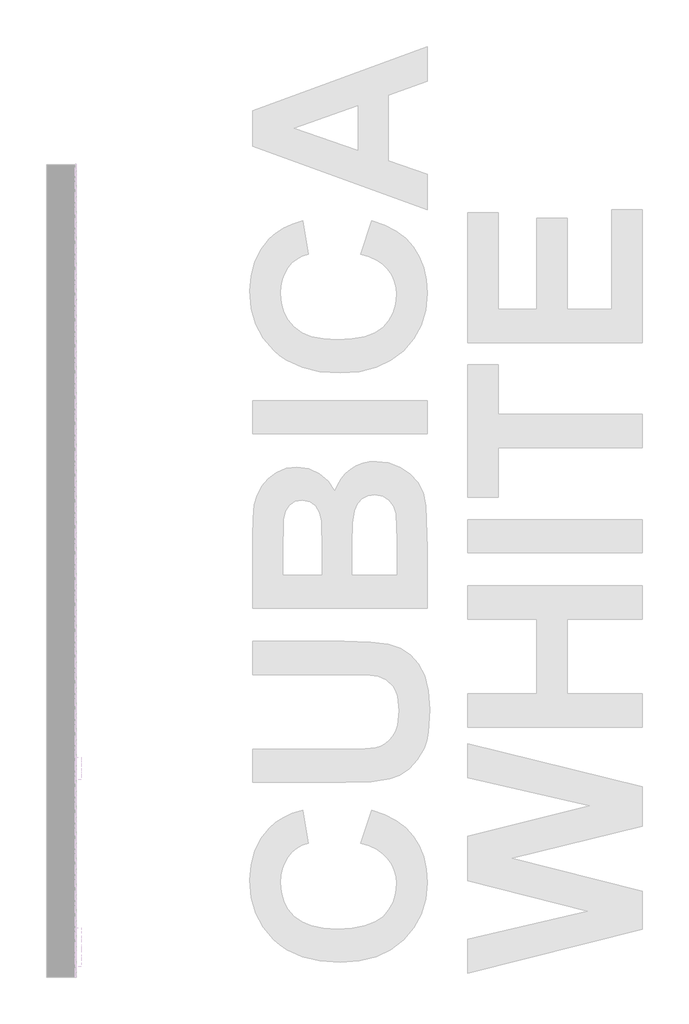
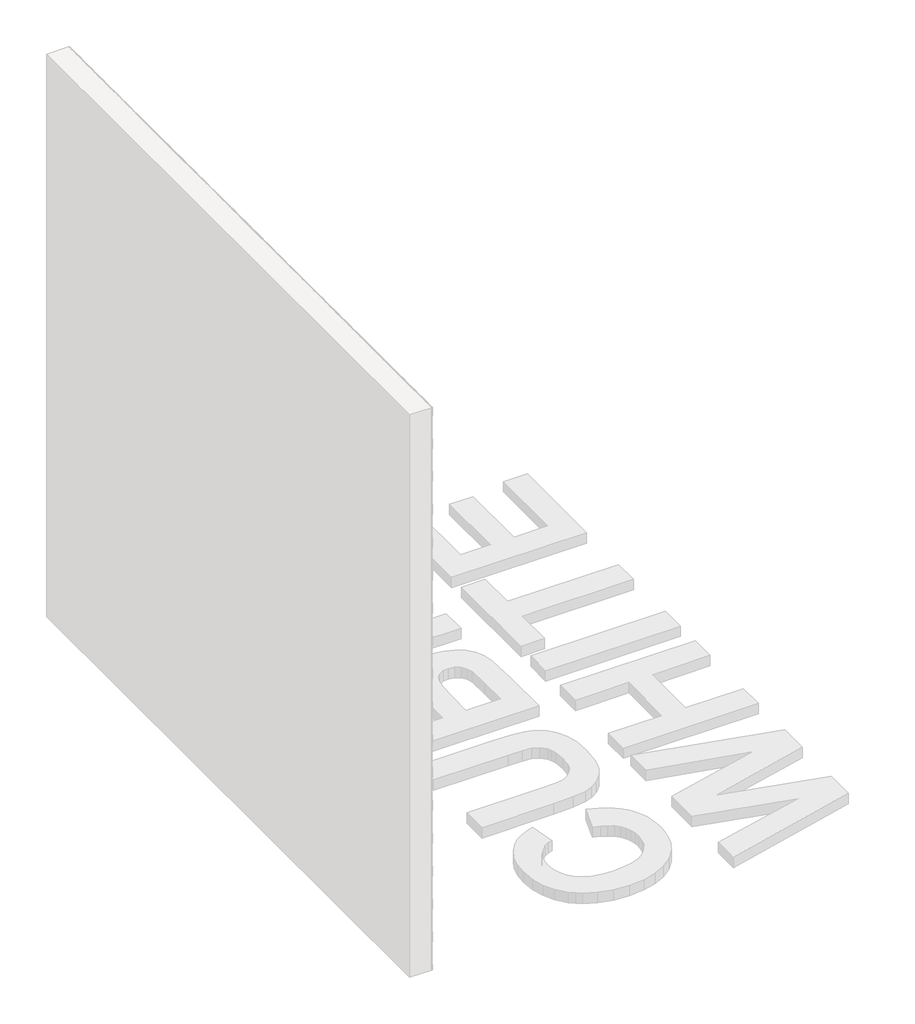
# One storey, part 117 of 121: 144 proxies.
"""IFC4 building model written with IfcOpenShell, lengths in millimetres."""

from ifc_helpers import new_model, si_unit, origin, place, context, project, spatial, transform, mapped, element, save
from components import generic_models_b2b2c5c1, generic_models_9bf73f6f, generic_models_5d175859, generic_models_0bb79e7c

model = new_model("IFC4")

# Units and contexts
model_context = context("Model", 3, world=origin())
ifc_project = project(units=[si_unit("LENGTHUNIT", "METRE", prefix="MILLI")], contexts=[model_context])

# Site, building, storey
site = spatial("IfcSite", under=ifc_project)
building = spatial("IfcBuilding", under=site)
storey = spatial("IfcBuildingStorey", under=building, Name="PORTOBELLO - SHOWROOM", Elevation=0.0)

# Proxies
placement = place(None, origin())
generic_models_shape = generic_models_b2b2c5c1(model_context)
element("IfcBuildingElementProxy", 1, Name="PBSHOP - CUBICA WHITE 4,8X8,3 : CUBICA WHITE - POSIÇÃO 01", ObjectType="PBSHOP - CUBICA WHITE 4,8X8,3 : CUBICA WHITE - POSIÇÃO 01", at=placement, inside=storey, context=model_context, shape_type="MappedRepresentation", body=[
    mapped(generic_models_shape, transform((150369.5341846, 21830.8865536, 1302.3763808), x_axis=(0.0, 1.0, 0.0), y_axis=(0.0, 0.0, 1.0), z_axis=(1.0, 0.0, 0.0))),
])
element("IfcBuildingElementProxy", 2, Name="PBSHOP - CUBICA WHITE 4,8X8,3 : CUBICA WHITE - POSIÇÃO 01", ObjectType="PBSHOP - CUBICA WHITE 4,8X8,3 : CUBICA WHITE - POSIÇÃO 01", at=placement, inside=storey, context=model_context, shape_type="MappedRepresentation", body=[
    mapped(generic_models_shape, transform((150369.5341846, 21921.7258229, 1302.3763808), x_axis=(0.0, 1.0, 0.0), y_axis=(0.0, 0.0, 1.0), z_axis=(1.0, 0.0, 0.0))),
])
element("IfcBuildingElementProxy", 3, Name="PBSHOP - CUBICA WHITE 4,8X8,3 : CUBICA WHITE - POSIÇÃO 01", ObjectType="PBSHOP - CUBICA WHITE 4,8X8,3 : CUBICA WHITE - POSIÇÃO 01", at=placement, inside=storey, context=model_context, shape_type="MappedRepresentation", body=[
    mapped(generic_models_shape, transform((150369.5341846, 21058.7527651, 1381.3110192), x_axis=(0.0, 1.0, 0.0), y_axis=(0.0, 0.0, 1.0), z_axis=(1.0, 0.0, 0.0))),
])
element("IfcBuildingElementProxy", 4, Name="PBSHOP - CUBICA WHITE 4,8X8,3 : CUBICA WHITE - POSIÇÃO 01", ObjectType="PBSHOP - CUBICA WHITE 4,8X8,3 : CUBICA WHITE - POSIÇÃO 01", at=placement, inside=storey, context=model_context, shape_type="MappedRepresentation", body=[
    mapped(generic_models_shape, transform((150369.5341846, 21149.5920343, 1381.3110192), x_axis=(0.0, 1.0, 0.0), y_axis=(0.0, 0.0, 1.0), z_axis=(1.0, 0.0, 0.0))),
])
element("IfcBuildingElementProxy", 5, Name="PBSHOP - CUBICA WHITE 4,8X8,3 : CUBICA WHITE - POSIÇÃO 01", ObjectType="PBSHOP - CUBICA WHITE 4,8X8,3 : CUBICA WHITE - POSIÇÃO 01", at=placement, inside=storey, context=model_context, shape_type="MappedRepresentation", body=[
    mapped(generic_models_shape, transform((150369.5341846, 21240.4313036, 1381.3110192), x_axis=(0.0, 1.0, 0.0), y_axis=(0.0, 0.0, 1.0), z_axis=(1.0, 0.0, 0.0))),
])
element("IfcBuildingElementProxy", 6, Name="PBSHOP - CUBICA WHITE 4,8X8,3 : CUBICA WHITE - POSIÇÃO 01", ObjectType="PBSHOP - CUBICA WHITE 4,8X8,3 : CUBICA WHITE - POSIÇÃO 01", at=placement, inside=storey, context=model_context, shape_type="MappedRepresentation", body=[
    mapped(generic_models_shape, transform((150369.5341846, 21331.2705728, 1381.3110192), x_axis=(0.0, 1.0, 0.0), y_axis=(0.0, 0.0, 1.0), z_axis=(1.0, 0.0, 0.0))),
])
element("IfcBuildingElementProxy", 7, Name="PBSHOP - CUBICA WHITE 4,8X8,3 : CUBICA WHITE - POSIÇÃO 01", ObjectType="PBSHOP - CUBICA WHITE 4,8X8,3 : CUBICA WHITE - POSIÇÃO 01", at=placement, inside=storey, context=model_context, shape_type="MappedRepresentation", body=[
    mapped(generic_models_shape, transform((150369.5341846, 21422.109842, 1381.3110192), x_axis=(0.0, 1.0, 0.0), y_axis=(0.0, 0.0, 1.0), z_axis=(1.0, 0.0, 0.0))),
])
element("IfcBuildingElementProxy", 8, Name="PBSHOP - CUBICA WHITE 4,8X8,3 : CUBICA WHITE - POSIÇÃO 01", ObjectType="PBSHOP - CUBICA WHITE 4,8X8,3 : CUBICA WHITE - POSIÇÃO 01", at=placement, inside=storey, context=model_context, shape_type="MappedRepresentation", body=[
    mapped(generic_models_shape, transform((150369.5341846, 21512.9491113, 1381.3110192), x_axis=(0.0, 1.0, 0.0), y_axis=(0.0, 0.0, 1.0), z_axis=(1.0, 0.0, 0.0))),
])
element("IfcBuildingElementProxy", 9, Name="PBSHOP - CUBICA WHITE 4,8X8,3 : CUBICA WHITE - POSIÇÃO 01", ObjectType="PBSHOP - CUBICA WHITE 4,8X8,3 : CUBICA WHITE - POSIÇÃO 01", at=placement, inside=storey, context=model_context, shape_type="MappedRepresentation", body=[
    mapped(generic_models_shape, transform((150369.5341846, 21603.7883805, 1381.3110192), x_axis=(0.0, 1.0, 0.0), y_axis=(0.0, 0.0, 1.0), z_axis=(1.0, 0.0, 0.0))),
])
element("IfcBuildingElementProxy", 10, Name="PBSHOP - CUBICA WHITE 4,8X8,3 : CUBICA WHITE - POSIÇÃO 01", ObjectType="PBSHOP - CUBICA WHITE 4,8X8,3 : CUBICA WHITE - POSIÇÃO 01", at=placement, inside=storey, context=model_context, shape_type="MappedRepresentation", body=[
    mapped(generic_models_shape, transform((150369.5341846, 21694.6276498, 1381.3110192), x_axis=(0.0, 1.0, 0.0), y_axis=(0.0, 0.0, 1.0), z_axis=(1.0, 0.0, 0.0))),
])
element("IfcBuildingElementProxy", 11, Name="PBSHOP - CUBICA WHITE 4,8X8,3 : CUBICA WHITE - POSIÇÃO 01", ObjectType="PBSHOP - CUBICA WHITE 4,8X8,3 : CUBICA WHITE - POSIÇÃO 01", at=placement, inside=storey, context=model_context, shape_type="MappedRepresentation", body=[
    mapped(generic_models_shape, transform((150369.5341846, 21785.466919, 1381.3110192), x_axis=(0.0, 1.0, 0.0), y_axis=(0.0, 0.0, 1.0), z_axis=(1.0, 0.0, 0.0))),
])
element("IfcBuildingElementProxy", 12, Name="PBSHOP - CUBICA WHITE 4,8X8,3 : CUBICA WHITE - POSIÇÃO 01", ObjectType="PBSHOP - CUBICA WHITE 4,8X8,3 : CUBICA WHITE - POSIÇÃO 01", at=placement, inside=storey, context=model_context, shape_type="MappedRepresentation", body=[
    mapped(generic_models_shape, transform((150369.5341846, 21876.3061883, 1381.3110192), x_axis=(0.0, 1.0, 0.0), y_axis=(0.0, 0.0, 1.0), z_axis=(1.0, 0.0, 0.0))),
])
element("IfcBuildingElementProxy", 13, Name="PBSHOP - CUBICA WHITE 4,8X8,3 : CUBICA WHITE - POSIÇÃO 01", ObjectType="PBSHOP - CUBICA WHITE 4,8X8,3 : CUBICA WHITE - POSIÇÃO 01", at=placement, inside=storey, context=model_context, shape_type="MappedRepresentation", body=[
    mapped(generic_models_shape, transform((150369.5341846, 21967.1454575, 1381.3110192), x_axis=(0.0, 1.0, 0.0), y_axis=(0.0, 0.0, 1.0), z_axis=(1.0, 0.0, 0.0))),
])
element("IfcBuildingElementProxy", 14, Name="PBSHOP - CUBICA WHITE 4,8X8,3 : CUBICA WHITE - POSIÇÃO 01", ObjectType="PBSHOP - CUBICA WHITE 4,8X8,3 : CUBICA WHITE - POSIÇÃO 01", at=placement, inside=storey, context=model_context, shape_type="MappedRepresentation", body=[
    mapped(generic_models_shape, transform((150369.5341846, 21013.3331304, 1460.2456575), x_axis=(0.0, 1.0, 0.0), y_axis=(0.0, 0.0, 1.0), z_axis=(1.0, 0.0, 0.0))),
])
element("IfcBuildingElementProxy", 15, Name="PBSHOP - CUBICA WHITE 4,8X8,3 : CUBICA WHITE - POSIÇÃO 01", ObjectType="PBSHOP - CUBICA WHITE 4,8X8,3 : CUBICA WHITE - POSIÇÃO 01", at=placement, inside=storey, context=model_context, shape_type="MappedRepresentation", body=[
    mapped(generic_models_shape, transform((150369.5341846, 21104.1723997, 1460.2456575), x_axis=(0.0, 1.0, 0.0), y_axis=(0.0, 0.0, 1.0), z_axis=(1.0, 0.0, 0.0))),
])
element("IfcBuildingElementProxy", 16, Name="PBSHOP - CUBICA WHITE 4,8X8,3 : CUBICA WHITE - POSIÇÃO 01", ObjectType="PBSHOP - CUBICA WHITE 4,8X8,3 : CUBICA WHITE - POSIÇÃO 01", at=placement, inside=storey, context=model_context, shape_type="MappedRepresentation", body=[
    mapped(generic_models_shape, transform((150369.5341846, 21195.0116689, 1460.2456575), x_axis=(0.0, 1.0, 0.0), y_axis=(0.0, 0.0, 1.0), z_axis=(1.0, 0.0, 0.0))),
])
element("IfcBuildingElementProxy", 17, Name="PBSHOP - CUBICA WHITE 4,8X8,3 : CUBICA WHITE - POSIÇÃO 01", ObjectType="PBSHOP - CUBICA WHITE 4,8X8,3 : CUBICA WHITE - POSIÇÃO 01", at=placement, inside=storey, context=model_context, shape_type="MappedRepresentation", body=[
    mapped(generic_models_shape, transform((150369.5341846, 21285.8509382, 1460.2456575), x_axis=(0.0, 1.0, 0.0), y_axis=(0.0, 0.0, 1.0), z_axis=(1.0, 0.0, 0.0))),
])
element("IfcBuildingElementProxy", 18, Name="PBSHOP - CUBICA WHITE 4,8X8,3 : CUBICA WHITE - POSIÇÃO 01", ObjectType="PBSHOP - CUBICA WHITE 4,8X8,3 : CUBICA WHITE - POSIÇÃO 01", at=placement, inside=storey, context=model_context, shape_type="MappedRepresentation", body=[
    mapped(generic_models_shape, transform((150369.5341846, 21376.6902074, 1460.2456575), x_axis=(0.0, 1.0, 0.0), y_axis=(0.0, 0.0, 1.0), z_axis=(1.0, 0.0, 0.0))),
])
element("IfcBuildingElementProxy", 19, Name="PBSHOP - CUBICA WHITE 4,8X8,3 : CUBICA WHITE - POSIÇÃO 01", ObjectType="PBSHOP - CUBICA WHITE 4,8X8,3 : CUBICA WHITE - POSIÇÃO 01", at=placement, inside=storey, context=model_context, shape_type="MappedRepresentation", body=[
    mapped(generic_models_shape, transform((150369.5341846, 21467.5294767, 1460.2456575), x_axis=(0.0, 1.0, 0.0), y_axis=(0.0, 0.0, 1.0), z_axis=(1.0, 0.0, 0.0))),
])
element("IfcBuildingElementProxy", 20, Name="PBSHOP - CUBICA WHITE 4,8X8,3 : CUBICA WHITE - POSIÇÃO 01", ObjectType="PBSHOP - CUBICA WHITE 4,8X8,3 : CUBICA WHITE - POSIÇÃO 01", at=placement, inside=storey, context=model_context, shape_type="MappedRepresentation", body=[
    mapped(generic_models_shape, transform((150369.5341846, 21558.3687459, 1460.2456575), x_axis=(0.0, 1.0, 0.0), y_axis=(0.0, 0.0, 1.0), z_axis=(1.0, 0.0, 0.0))),
])
element("IfcBuildingElementProxy", 21, Name="PBSHOP - CUBICA WHITE 4,8X8,3 : CUBICA WHITE - POSIÇÃO 01", ObjectType="PBSHOP - CUBICA WHITE 4,8X8,3 : CUBICA WHITE - POSIÇÃO 01", at=placement, inside=storey, context=model_context, shape_type="MappedRepresentation", body=[
    mapped(generic_models_shape, transform((150369.5341846, 21649.2080152, 1460.2456575), x_axis=(0.0, 1.0, 0.0), y_axis=(0.0, 0.0, 1.0), z_axis=(1.0, 0.0, 0.0))),
])
element("IfcBuildingElementProxy", 22, Name="PBSHOP - CUBICA WHITE 4,8X8,3 : CUBICA WHITE - POSIÇÃO 01", ObjectType="PBSHOP - CUBICA WHITE 4,8X8,3 : CUBICA WHITE - POSIÇÃO 01", at=placement, inside=storey, context=model_context, shape_type="MappedRepresentation", body=[
    mapped(generic_models_shape, transform((150369.5341846, 21740.0472844, 1460.2456575), x_axis=(0.0, 1.0, 0.0), y_axis=(0.0, 0.0, 1.0), z_axis=(1.0, 0.0, 0.0))),
])
element("IfcBuildingElementProxy", 23, Name="PBSHOP - CUBICA WHITE 4,8X8,3 : CUBICA WHITE - POSIÇÃO 01", ObjectType="PBSHOP - CUBICA WHITE 4,8X8,3 : CUBICA WHITE - POSIÇÃO 01", at=placement, inside=storey, context=model_context, shape_type="MappedRepresentation", body=[
    mapped(generic_models_shape, transform((150369.5341846, 21830.8865536, 1460.2456575), x_axis=(0.0, 1.0, 0.0), y_axis=(0.0, 0.0, 1.0), z_axis=(1.0, 0.0, 0.0))),
])
element("IfcBuildingElementProxy", 24, Name="PBSHOP - CUBICA WHITE 4,8X8,3 : CUBICA WHITE - POSIÇÃO 01", ObjectType="PBSHOP - CUBICA WHITE 4,8X8,3 : CUBICA WHITE - POSIÇÃO 01", at=placement, inside=storey, context=model_context, shape_type="MappedRepresentation", body=[
    mapped(generic_models_shape, transform((150369.5341846, 21921.7258229, 1460.2456575), x_axis=(0.0, 1.0, 0.0), y_axis=(0.0, 0.0, 1.0), z_axis=(1.0, 0.0, 0.0))),
])
element("IfcBuildingElementProxy", 25, Name="PBSHOP - CUBICA WHITE 4,8X8,3 : CUBICA WHITE - POSIÇÃO 01", ObjectType="PBSHOP - CUBICA WHITE 4,8X8,3 : CUBICA WHITE - POSIÇÃO 01", at=placement, inside=storey, context=model_context, shape_type="MappedRepresentation", body=[
    mapped(generic_models_shape, transform((150369.5341846, 21058.7527651, 1539.1802959), x_axis=(0.0, 1.0, 0.0), y_axis=(0.0, 0.0, 1.0), z_axis=(1.0, 0.0, 0.0))),
])
element("IfcBuildingElementProxy", 26, Name="PBSHOP - CUBICA WHITE 4,8X8,3 : CUBICA WHITE - POSIÇÃO 01", ObjectType="PBSHOP - CUBICA WHITE 4,8X8,3 : CUBICA WHITE - POSIÇÃO 01", at=placement, inside=storey, context=model_context, shape_type="MappedRepresentation", body=[
    mapped(generic_models_shape, transform((150369.5341846, 21149.5920343, 1539.1802959), x_axis=(0.0, 1.0, 0.0), y_axis=(0.0, 0.0, 1.0), z_axis=(1.0, 0.0, 0.0))),
])
element("IfcBuildingElementProxy", 27, Name="PBSHOP - CUBICA WHITE 4,8X8,3 : CUBICA WHITE - POSIÇÃO 01", ObjectType="PBSHOP - CUBICA WHITE 4,8X8,3 : CUBICA WHITE - POSIÇÃO 01", at=placement, inside=storey, context=model_context, shape_type="MappedRepresentation", body=[
    mapped(generic_models_shape, transform((150369.5341846, 21240.4313036, 1539.1802959), x_axis=(0.0, 1.0, 0.0), y_axis=(0.0, 0.0, 1.0), z_axis=(1.0, 0.0, 0.0))),
])
element("IfcBuildingElementProxy", 28, Name="PBSHOP - CUBICA WHITE 4,8X8,3 : CUBICA WHITE - POSIÇÃO 01", ObjectType="PBSHOP - CUBICA WHITE 4,8X8,3 : CUBICA WHITE - POSIÇÃO 01", at=placement, inside=storey, context=model_context, shape_type="MappedRepresentation", body=[
    mapped(generic_models_shape, transform((150369.5341846, 21331.2705728, 1539.1802959), x_axis=(0.0, 1.0, 0.0), y_axis=(0.0, 0.0, 1.0), z_axis=(1.0, 0.0, 0.0))),
])
element("IfcBuildingElementProxy", 29, Name="PBSHOP - CUBICA WHITE 4,8X8,3 : CUBICA WHITE - POSIÇÃO 01", ObjectType="PBSHOP - CUBICA WHITE 4,8X8,3 : CUBICA WHITE - POSIÇÃO 01", at=placement, inside=storey, context=model_context, shape_type="MappedRepresentation", body=[
    mapped(generic_models_shape, transform((150369.5341846, 21422.109842, 1539.1802959), x_axis=(0.0, 1.0, 0.0), y_axis=(0.0, 0.0, 1.0), z_axis=(1.0, 0.0, 0.0))),
])
element("IfcBuildingElementProxy", 30, Name="PBSHOP - CUBICA WHITE 4,8X8,3 : CUBICA WHITE - POSIÇÃO 01", ObjectType="PBSHOP - CUBICA WHITE 4,8X8,3 : CUBICA WHITE - POSIÇÃO 01", at=placement, inside=storey, context=model_context, shape_type="MappedRepresentation", body=[
    mapped(generic_models_shape, transform((150369.5341846, 21512.9491113, 1539.1802959), x_axis=(0.0, 1.0, 0.0), y_axis=(0.0, 0.0, 1.0), z_axis=(1.0, 0.0, 0.0))),
])
element("IfcBuildingElementProxy", 31, Name="PBSHOP - CUBICA WHITE 4,8X8,3 : CUBICA WHITE - POSIÇÃO 01", ObjectType="PBSHOP - CUBICA WHITE 4,8X8,3 : CUBICA WHITE - POSIÇÃO 01", at=placement, inside=storey, context=model_context, shape_type="MappedRepresentation", body=[
    mapped(generic_models_shape, transform((150369.5341846, 21603.7883805, 1539.1802959), x_axis=(0.0, 1.0, 0.0), y_axis=(0.0, 0.0, 1.0), z_axis=(1.0, 0.0, 0.0))),
])
element("IfcBuildingElementProxy", 32, Name="PBSHOP - CUBICA WHITE 4,8X8,3 : CUBICA WHITE - POSIÇÃO 01", ObjectType="PBSHOP - CUBICA WHITE 4,8X8,3 : CUBICA WHITE - POSIÇÃO 01", at=placement, inside=storey, context=model_context, shape_type="MappedRepresentation", body=[
    mapped(generic_models_shape, transform((150369.5341846, 21694.6276498, 1539.1802959), x_axis=(0.0, 1.0, 0.0), y_axis=(0.0, 0.0, 1.0), z_axis=(1.0, 0.0, 0.0))),
])
element("IfcBuildingElementProxy", 33, Name="PBSHOP - CUBICA WHITE 4,8X8,3 : CUBICA WHITE - POSIÇÃO 01", ObjectType="PBSHOP - CUBICA WHITE 4,8X8,3 : CUBICA WHITE - POSIÇÃO 01", at=placement, inside=storey, context=model_context, shape_type="MappedRepresentation", body=[
    mapped(generic_models_shape, transform((150369.5341846, 21785.466919, 1539.1802959), x_axis=(0.0, 1.0, 0.0), y_axis=(0.0, 0.0, 1.0), z_axis=(1.0, 0.0, 0.0))),
])
element("IfcBuildingElementProxy", 34, Name="PBSHOP - CUBICA WHITE 4,8X8,3 : CUBICA WHITE - POSIÇÃO 01", ObjectType="PBSHOP - CUBICA WHITE 4,8X8,3 : CUBICA WHITE - POSIÇÃO 01", at=placement, inside=storey, context=model_context, shape_type="MappedRepresentation", body=[
    mapped(generic_models_shape, transform((150369.5341846, 21876.3061883, 1539.1802959), x_axis=(0.0, 1.0, 0.0), y_axis=(0.0, 0.0, 1.0), z_axis=(1.0, 0.0, 0.0))),
])
element("IfcBuildingElementProxy", 35, Name="PBSHOP - CUBICA WHITE 4,8X8,3 : CUBICA WHITE - POSIÇÃO 01", ObjectType="PBSHOP - CUBICA WHITE 4,8X8,3 : CUBICA WHITE - POSIÇÃO 01", at=placement, inside=storey, context=model_context, shape_type="MappedRepresentation", body=[
    mapped(generic_models_shape, transform((150369.5341846, 21967.1454575, 1539.1802959), x_axis=(0.0, 1.0, 0.0), y_axis=(0.0, 0.0, 1.0), z_axis=(1.0, 0.0, 0.0))),
])
element("IfcBuildingElementProxy", 36, Name="PBSHOP - CUBICA WHITE 4,8X8,3 : CUBICA WHITE - POSIÇÃO 01", ObjectType="PBSHOP - CUBICA WHITE 4,8X8,3 : CUBICA WHITE - POSIÇÃO 01", at=placement, inside=storey, context=model_context, shape_type="MappedRepresentation", body=[
    mapped(generic_models_shape, transform((150369.5341846, 21013.3331304, 1618.1149343), x_axis=(0.0, 1.0, 0.0), y_axis=(0.0, 0.0, 1.0), z_axis=(1.0, 0.0, 0.0))),
])
element("IfcBuildingElementProxy", 37, Name="PBSHOP - CUBICA WHITE 4,8X8,3 : CUBICA WHITE - POSIÇÃO 01", ObjectType="PBSHOP - CUBICA WHITE 4,8X8,3 : CUBICA WHITE - POSIÇÃO 01", at=placement, inside=storey, context=model_context, shape_type="MappedRepresentation", body=[
    mapped(generic_models_shape, transform((150369.5341846, 21104.1723997, 1618.1149343), x_axis=(0.0, 1.0, 0.0), y_axis=(0.0, 0.0, 1.0), z_axis=(1.0, 0.0, 0.0))),
])
element("IfcBuildingElementProxy", 38, Name="PBSHOP - CUBICA WHITE 4,8X8,3 : CUBICA WHITE - POSIÇÃO 01", ObjectType="PBSHOP - CUBICA WHITE 4,8X8,3 : CUBICA WHITE - POSIÇÃO 01", at=placement, inside=storey, context=model_context, shape_type="MappedRepresentation", body=[
    mapped(generic_models_shape, transform((150369.5341846, 21195.0116689, 1618.1149343), x_axis=(0.0, 1.0, 0.0), y_axis=(0.0, 0.0, 1.0), z_axis=(1.0, 0.0, 0.0))),
])
element("IfcBuildingElementProxy", 39, Name="PBSHOP - CUBICA WHITE 4,8X8,3 : CUBICA WHITE - POSIÇÃO 01", ObjectType="PBSHOP - CUBICA WHITE 4,8X8,3 : CUBICA WHITE - POSIÇÃO 01", at=placement, inside=storey, context=model_context, shape_type="MappedRepresentation", body=[
    mapped(generic_models_shape, transform((150369.5341846, 21285.8509382, 1618.1149343), x_axis=(0.0, 1.0, 0.0), y_axis=(0.0, 0.0, 1.0), z_axis=(1.0, 0.0, 0.0))),
])
element("IfcBuildingElementProxy", 40, Name="PBSHOP - CUBICA WHITE 4,8X8,3 : CUBICA WHITE - POSIÇÃO 01", ObjectType="PBSHOP - CUBICA WHITE 4,8X8,3 : CUBICA WHITE - POSIÇÃO 01", at=placement, inside=storey, context=model_context, shape_type="MappedRepresentation", body=[
    mapped(generic_models_shape, transform((150369.5341846, 21376.6902074, 1618.1149343), x_axis=(0.0, 1.0, 0.0), y_axis=(0.0, 0.0, 1.0), z_axis=(1.0, 0.0, 0.0))),
])
element("IfcBuildingElementProxy", 41, Name="PBSHOP - CUBICA WHITE 4,8X8,3 : CUBICA WHITE - POSIÇÃO 01", ObjectType="PBSHOP - CUBICA WHITE 4,8X8,3 : CUBICA WHITE - POSIÇÃO 01", at=placement, inside=storey, context=model_context, shape_type="MappedRepresentation", body=[
    mapped(generic_models_shape, transform((150369.5341846, 21467.5294767, 1618.1149343), x_axis=(0.0, 1.0, 0.0), y_axis=(0.0, 0.0, 1.0), z_axis=(1.0, 0.0, 0.0))),
])
element("IfcBuildingElementProxy", 42, Name="PBSHOP - CUBICA WHITE 4,8X8,3 : CUBICA WHITE - POSIÇÃO 01", ObjectType="PBSHOP - CUBICA WHITE 4,8X8,3 : CUBICA WHITE - POSIÇÃO 01", at=placement, inside=storey, context=model_context, shape_type="MappedRepresentation", body=[
    mapped(generic_models_shape, transform((150369.5341846, 21558.3687459, 1618.1149343), x_axis=(0.0, 1.0, 0.0), y_axis=(0.0, 0.0, 1.0), z_axis=(1.0, 0.0, 0.0))),
])
element("IfcBuildingElementProxy", 43, Name="PBSHOP - CUBICA WHITE 4,8X8,3 : CUBICA WHITE - POSIÇÃO 01", ObjectType="PBSHOP - CUBICA WHITE 4,8X8,3 : CUBICA WHITE - POSIÇÃO 01", at=placement, inside=storey, context=model_context, shape_type="MappedRepresentation", body=[
    mapped(generic_models_shape, transform((150369.5341846, 21649.2080152, 1618.1149343), x_axis=(0.0, 1.0, 0.0), y_axis=(0.0, 0.0, 1.0), z_axis=(1.0, 0.0, 0.0))),
])
element("IfcBuildingElementProxy", 44, Name="PBSHOP - CUBICA WHITE 4,8X8,3 : CUBICA WHITE - POSIÇÃO 01", ObjectType="PBSHOP - CUBICA WHITE 4,8X8,3 : CUBICA WHITE - POSIÇÃO 01", at=placement, inside=storey, context=model_context, shape_type="MappedRepresentation", body=[
    mapped(generic_models_shape, transform((150369.5341846, 21740.0472844, 1618.1149343), x_axis=(0.0, 1.0, 0.0), y_axis=(0.0, 0.0, 1.0), z_axis=(1.0, 0.0, 0.0))),
])
element("IfcBuildingElementProxy", 45, Name="PBSHOP - CUBICA WHITE 4,8X8,3 : CUBICA WHITE - POSIÇÃO 01", ObjectType="PBSHOP - CUBICA WHITE 4,8X8,3 : CUBICA WHITE - POSIÇÃO 01", at=placement, inside=storey, context=model_context, shape_type="MappedRepresentation", body=[
    mapped(generic_models_shape, transform((150369.5341846, 21830.8865536, 1618.1149343), x_axis=(0.0, 1.0, 0.0), y_axis=(0.0, 0.0, 1.0), z_axis=(1.0, 0.0, 0.0))),
])
element("IfcBuildingElementProxy", 46, Name="PBSHOP - CUBICA WHITE 4,8X8,3 : CUBICA WHITE - POSIÇÃO 01", ObjectType="PBSHOP - CUBICA WHITE 4,8X8,3 : CUBICA WHITE - POSIÇÃO 01", at=placement, inside=storey, context=model_context, shape_type="MappedRepresentation", body=[
    mapped(generic_models_shape, transform((150369.5341846, 21921.7258229, 1618.1149343), x_axis=(0.0, 1.0, 0.0), y_axis=(0.0, 0.0, 1.0), z_axis=(1.0, 0.0, 0.0))),
])
generic_models_2_shape = generic_models_9bf73f6f(model_context)
element("IfcBuildingElementProxy", 47, Name="PBSHOP - CUBICA WHITE 4,8X8,3 : CUBICA WHITE - POSIÇÃO 03", ObjectType="PBSHOP - CUBICA WHITE 4,8X8,3 : CUBICA WHITE - POSIÇÃO 03", at=placement, inside=storey, context=model_context, shape_type="MappedRepresentation", body=[
    mapped(generic_models_2_shape, transform((150369.5341846, 21081.4647415, 1262.8678512), x_axis=(0.0, 1.0, 0.0), y_axis=(0.0, 0.0, 1.0), z_axis=(1.0, 0.0, 0.0))),
])
element("IfcBuildingElementProxy", 48, Name="PBSHOP - CUBICA WHITE 4,8X8,3 : CUBICA WHITE - POSIÇÃO 03", ObjectType="PBSHOP - CUBICA WHITE 4,8X8,3 : CUBICA WHITE - POSIÇÃO 03", at=placement, inside=storey, context=model_context, shape_type="MappedRepresentation", body=[
    mapped(generic_models_2_shape, transform((150369.5341846, 21172.3040108, 1262.8678512), x_axis=(0.0, 1.0, 0.0), y_axis=(0.0, 0.0, 1.0), z_axis=(1.0, 0.0, 0.0))),
])
element("IfcBuildingElementProxy", 49, Name="PBSHOP - CUBICA WHITE 4,8X8,3 : CUBICA WHITE - POSIÇÃO 03", ObjectType="PBSHOP - CUBICA WHITE 4,8X8,3 : CUBICA WHITE - POSIÇÃO 03", at=placement, inside=storey, context=model_context, shape_type="MappedRepresentation", body=[
    mapped(generic_models_2_shape, transform((150369.5341846, 21263.14328, 1262.8678512), x_axis=(0.0, 1.0, 0.0), y_axis=(0.0, 0.0, 1.0), z_axis=(1.0, 0.0, 0.0))),
])
element("IfcBuildingElementProxy", 50, Name="PBSHOP - CUBICA WHITE 4,8X8,3 : CUBICA WHITE - POSIÇÃO 03", ObjectType="PBSHOP - CUBICA WHITE 4,8X8,3 : CUBICA WHITE - POSIÇÃO 03", at=placement, inside=storey, context=model_context, shape_type="MappedRepresentation", body=[
    mapped(generic_models_2_shape, transform((150369.5341846, 21353.9825493, 1262.8678512), x_axis=(0.0, 1.0, 0.0), y_axis=(0.0, 0.0, 1.0), z_axis=(1.0, 0.0, 0.0))),
])
element("IfcBuildingElementProxy", 51, Name="PBSHOP - CUBICA WHITE 4,8X8,3 : CUBICA WHITE - POSIÇÃO 03", ObjectType="PBSHOP - CUBICA WHITE 4,8X8,3 : CUBICA WHITE - POSIÇÃO 03", at=placement, inside=storey, context=model_context, shape_type="MappedRepresentation", body=[
    mapped(generic_models_2_shape, transform((150369.5341846, 21444.8218185, 1262.8678512), x_axis=(0.0, 1.0, 0.0), y_axis=(0.0, 0.0, 1.0), z_axis=(1.0, 0.0, 0.0))),
])
element("IfcBuildingElementProxy", 52, Name="PBSHOP - CUBICA WHITE 4,8X8,3 : CUBICA WHITE - POSIÇÃO 03", ObjectType="PBSHOP - CUBICA WHITE 4,8X8,3 : CUBICA WHITE - POSIÇÃO 03", at=placement, inside=storey, context=model_context, shape_type="MappedRepresentation", body=[
    mapped(generic_models_2_shape, transform((150369.5341846, 21535.6610878, 1262.8678512), x_axis=(0.0, 1.0, 0.0), y_axis=(0.0, 0.0, 1.0), z_axis=(1.0, 0.0, 0.0))),
])
element("IfcBuildingElementProxy", 53, Name="PBSHOP - CUBICA WHITE 4,8X8,3 : CUBICA WHITE - POSIÇÃO 03", ObjectType="PBSHOP - CUBICA WHITE 4,8X8,3 : CUBICA WHITE - POSIÇÃO 03", at=placement, inside=storey, context=model_context, shape_type="MappedRepresentation", body=[
    mapped(generic_models_2_shape, transform((150369.5341846, 21626.500357, 1262.8678512), x_axis=(0.0, 1.0, 0.0), y_axis=(0.0, 0.0, 1.0), z_axis=(1.0, 0.0, 0.0))),
])
element("IfcBuildingElementProxy", 54, Name="PBSHOP - CUBICA WHITE 4,8X8,3 : CUBICA WHITE - POSIÇÃO 03", ObjectType="PBSHOP - CUBICA WHITE 4,8X8,3 : CUBICA WHITE - POSIÇÃO 03", at=placement, inside=storey, context=model_context, shape_type="MappedRepresentation", body=[
    mapped(generic_models_2_shape, transform((150369.5341846, 21717.3396263, 1262.8678512), x_axis=(0.0, 1.0, 0.0), y_axis=(0.0, 0.0, 1.0), z_axis=(1.0, 0.0, 0.0))),
])
element("IfcBuildingElementProxy", 55, Name="PBSHOP - CUBICA WHITE 4,8X8,3 : CUBICA WHITE - POSIÇÃO 03", ObjectType="PBSHOP - CUBICA WHITE 4,8X8,3 : CUBICA WHITE - POSIÇÃO 03", at=placement, inside=storey, context=model_context, shape_type="MappedRepresentation", body=[
    mapped(generic_models_2_shape, transform((150369.5341846, 21808.1788955, 1262.8678512), x_axis=(0.0, 1.0, 0.0), y_axis=(0.0, 0.0, 1.0), z_axis=(1.0, 0.0, 0.0))),
])
element("IfcBuildingElementProxy", 56, Name="PBSHOP - CUBICA WHITE 4,8X8,3 : CUBICA WHITE - POSIÇÃO 03", ObjectType="PBSHOP - CUBICA WHITE 4,8X8,3 : CUBICA WHITE - POSIÇÃO 03", at=placement, inside=storey, context=model_context, shape_type="MappedRepresentation", body=[
    mapped(generic_models_2_shape, transform((150369.5341846, 21899.0181647, 1262.8678512), x_axis=(0.0, 1.0, 0.0), y_axis=(0.0, 0.0, 1.0), z_axis=(1.0, 0.0, 0.0))),
])
element("IfcBuildingElementProxy", 57, Name="PBSHOP - CUBICA WHITE 4,8X8,3 : CUBICA WHITE - POSIÇÃO 03", ObjectType="PBSHOP - CUBICA WHITE 4,8X8,3 : CUBICA WHITE - POSIÇÃO 03", at=placement, inside=storey, context=model_context, shape_type="MappedRepresentation", body=[
    mapped(generic_models_2_shape, transform((150369.5341846, 21036.0451069, 1341.8024896), x_axis=(0.0, 1.0, 0.0), y_axis=(0.0, 0.0, 1.0), z_axis=(1.0, 0.0, 0.0))),
])
element("IfcBuildingElementProxy", 58, Name="PBSHOP - CUBICA WHITE 4,8X8,3 : CUBICA WHITE - POSIÇÃO 03", ObjectType="PBSHOP - CUBICA WHITE 4,8X8,3 : CUBICA WHITE - POSIÇÃO 03", at=placement, inside=storey, context=model_context, shape_type="MappedRepresentation", body=[
    mapped(generic_models_2_shape, transform((150369.5341846, 21126.8843762, 1341.8024896), x_axis=(0.0, 1.0, 0.0), y_axis=(0.0, 0.0, 1.0), z_axis=(1.0, 0.0, 0.0))),
])
element("IfcBuildingElementProxy", 59, Name="PBSHOP - CUBICA WHITE 4,8X8,3 : CUBICA WHITE - POSIÇÃO 03", ObjectType="PBSHOP - CUBICA WHITE 4,8X8,3 : CUBICA WHITE - POSIÇÃO 03", at=placement, inside=storey, context=model_context, shape_type="MappedRepresentation", body=[
    mapped(generic_models_2_shape, transform((150369.5341846, 21217.7236454, 1341.8024896), x_axis=(0.0, 1.0, 0.0), y_axis=(0.0, 0.0, 1.0), z_axis=(1.0, 0.0, 0.0))),
])
element("IfcBuildingElementProxy", 60, Name="PBSHOP - CUBICA WHITE 4,8X8,3 : CUBICA WHITE - POSIÇÃO 03", ObjectType="PBSHOP - CUBICA WHITE 4,8X8,3 : CUBICA WHITE - POSIÇÃO 03", at=placement, inside=storey, context=model_context, shape_type="MappedRepresentation", body=[
    mapped(generic_models_2_shape, transform((150369.5341846, 21308.5629147, 1341.8024896), x_axis=(0.0, 1.0, 0.0), y_axis=(0.0, 0.0, 1.0), z_axis=(1.0, 0.0, 0.0))),
])
element("IfcBuildingElementProxy", 61, Name="PBSHOP - CUBICA WHITE 4,8X8,3 : CUBICA WHITE - POSIÇÃO 03", ObjectType="PBSHOP - CUBICA WHITE 4,8X8,3 : CUBICA WHITE - POSIÇÃO 03", at=placement, inside=storey, context=model_context, shape_type="MappedRepresentation", body=[
    mapped(generic_models_2_shape, transform((150369.5341846, 21399.4021839, 1341.8024896), x_axis=(0.0, 1.0, 0.0), y_axis=(0.0, 0.0, 1.0), z_axis=(1.0, 0.0, 0.0))),
])
element("IfcBuildingElementProxy", 62, Name="PBSHOP - CUBICA WHITE 4,8X8,3 : CUBICA WHITE - POSIÇÃO 03", ObjectType="PBSHOP - CUBICA WHITE 4,8X8,3 : CUBICA WHITE - POSIÇÃO 03", at=placement, inside=storey, context=model_context, shape_type="MappedRepresentation", body=[
    mapped(generic_models_2_shape, transform((150369.5341846, 21490.2414531, 1341.8024896), x_axis=(0.0, 1.0, 0.0), y_axis=(0.0, 0.0, 1.0), z_axis=(1.0, 0.0, 0.0))),
])
element("IfcBuildingElementProxy", 63, Name="PBSHOP - CUBICA WHITE 4,8X8,3 : CUBICA WHITE - POSIÇÃO 03", ObjectType="PBSHOP - CUBICA WHITE 4,8X8,3 : CUBICA WHITE - POSIÇÃO 03", at=placement, inside=storey, context=model_context, shape_type="MappedRepresentation", body=[
    mapped(generic_models_2_shape, transform((150369.5341846, 21581.0807224, 1341.8024896), x_axis=(0.0, 1.0, 0.0), y_axis=(0.0, 0.0, 1.0), z_axis=(1.0, 0.0, 0.0))),
])
element("IfcBuildingElementProxy", 64, Name="PBSHOP - CUBICA WHITE 4,8X8,3 : CUBICA WHITE - POSIÇÃO 03", ObjectType="PBSHOP - CUBICA WHITE 4,8X8,3 : CUBICA WHITE - POSIÇÃO 03", at=placement, inside=storey, context=model_context, shape_type="MappedRepresentation", body=[
    mapped(generic_models_2_shape, transform((150369.5341846, 21671.9199916, 1341.8024896), x_axis=(0.0, 1.0, 0.0), y_axis=(0.0, 0.0, 1.0), z_axis=(1.0, 0.0, 0.0))),
])
element("IfcBuildingElementProxy", 65, Name="PBSHOP - CUBICA WHITE 4,8X8,3 : CUBICA WHITE - POSIÇÃO 03", ObjectType="PBSHOP - CUBICA WHITE 4,8X8,3 : CUBICA WHITE - POSIÇÃO 03", at=placement, inside=storey, context=model_context, shape_type="MappedRepresentation", body=[
    mapped(generic_models_2_shape, transform((150369.5341846, 21762.7592609, 1341.8024896), x_axis=(0.0, 1.0, 0.0), y_axis=(0.0, 0.0, 1.0), z_axis=(1.0, 0.0, 0.0))),
])
element("IfcBuildingElementProxy", 66, Name="PBSHOP - CUBICA WHITE 4,8X8,3 : CUBICA WHITE - POSIÇÃO 03", ObjectType="PBSHOP - CUBICA WHITE 4,8X8,3 : CUBICA WHITE - POSIÇÃO 03", at=placement, inside=storey, context=model_context, shape_type="MappedRepresentation", body=[
    mapped(generic_models_2_shape, transform((150369.5341846, 21853.5985301, 1341.8024896), x_axis=(0.0, 1.0, 0.0), y_axis=(0.0, 0.0, 1.0), z_axis=(1.0, 0.0, 0.0))),
])
element("IfcBuildingElementProxy", 67, Name="PBSHOP - CUBICA WHITE 4,8X8,3 : CUBICA WHITE - POSIÇÃO 03", ObjectType="PBSHOP - CUBICA WHITE 4,8X8,3 : CUBICA WHITE - POSIÇÃO 03", at=placement, inside=storey, context=model_context, shape_type="MappedRepresentation", body=[
    mapped(generic_models_2_shape, transform((150369.5341846, 21944.4377994, 1341.8024896), x_axis=(0.0, 1.0, 0.0), y_axis=(0.0, 0.0, 1.0), z_axis=(1.0, 0.0, 0.0))),
])
element("IfcBuildingElementProxy", 68, Name="PBSHOP - CUBICA WHITE 4,8X8,3 : CUBICA WHITE - POSIÇÃO 03", ObjectType="PBSHOP - CUBICA WHITE 4,8X8,3 : CUBICA WHITE - POSIÇÃO 03", at=placement, inside=storey, context=model_context, shape_type="MappedRepresentation", body=[
    mapped(generic_models_2_shape, transform((150369.5341846, 21081.4647415, 1420.7371279), x_axis=(0.0, 1.0, 0.0), y_axis=(0.0, 0.0, 1.0), z_axis=(1.0, 0.0, 0.0))),
])
element("IfcBuildingElementProxy", 69, Name="PBSHOP - CUBICA WHITE 4,8X8,3 : CUBICA WHITE - POSIÇÃO 03", ObjectType="PBSHOP - CUBICA WHITE 4,8X8,3 : CUBICA WHITE - POSIÇÃO 03", at=placement, inside=storey, context=model_context, shape_type="MappedRepresentation", body=[
    mapped(generic_models_2_shape, transform((150369.5341846, 21172.3040108, 1420.7371279), x_axis=(0.0, 1.0, 0.0), y_axis=(0.0, 0.0, 1.0), z_axis=(1.0, 0.0, 0.0))),
])
element("IfcBuildingElementProxy", 70, Name="PBSHOP - CUBICA WHITE 4,8X8,3 : CUBICA WHITE - POSIÇÃO 03", ObjectType="PBSHOP - CUBICA WHITE 4,8X8,3 : CUBICA WHITE - POSIÇÃO 03", at=placement, inside=storey, context=model_context, shape_type="MappedRepresentation", body=[
    mapped(generic_models_2_shape, transform((150369.5341846, 21263.14328, 1420.7371279), x_axis=(0.0, 1.0, 0.0), y_axis=(0.0, 0.0, 1.0), z_axis=(1.0, 0.0, 0.0))),
])
element("IfcBuildingElementProxy", 71, Name="PBSHOP - CUBICA WHITE 4,8X8,3 : CUBICA WHITE - POSIÇÃO 03", ObjectType="PBSHOP - CUBICA WHITE 4,8X8,3 : CUBICA WHITE - POSIÇÃO 03", at=placement, inside=storey, context=model_context, shape_type="MappedRepresentation", body=[
    mapped(generic_models_2_shape, transform((150369.5341846, 21353.9825493, 1420.7371279), x_axis=(0.0, 1.0, 0.0), y_axis=(0.0, 0.0, 1.0), z_axis=(1.0, 0.0, 0.0))),
])
element("IfcBuildingElementProxy", 72, Name="PBSHOP - CUBICA WHITE 4,8X8,3 : CUBICA WHITE - POSIÇÃO 03", ObjectType="PBSHOP - CUBICA WHITE 4,8X8,3 : CUBICA WHITE - POSIÇÃO 03", at=placement, inside=storey, context=model_context, shape_type="MappedRepresentation", body=[
    mapped(generic_models_2_shape, transform((150369.5341846, 21444.8218185, 1420.7371279), x_axis=(0.0, 1.0, 0.0), y_axis=(0.0, 0.0, 1.0), z_axis=(1.0, 0.0, 0.0))),
])
element("IfcBuildingElementProxy", 73, Name="PBSHOP - CUBICA WHITE 4,8X8,3 : CUBICA WHITE - POSIÇÃO 03", ObjectType="PBSHOP - CUBICA WHITE 4,8X8,3 : CUBICA WHITE - POSIÇÃO 03", at=placement, inside=storey, context=model_context, shape_type="MappedRepresentation", body=[
    mapped(generic_models_2_shape, transform((150369.5341846, 21535.6610878, 1420.7371279), x_axis=(0.0, 1.0, 0.0), y_axis=(0.0, 0.0, 1.0), z_axis=(1.0, 0.0, 0.0))),
])
element("IfcBuildingElementProxy", 74, Name="PBSHOP - CUBICA WHITE 4,8X8,3 : CUBICA WHITE - POSIÇÃO 03", ObjectType="PBSHOP - CUBICA WHITE 4,8X8,3 : CUBICA WHITE - POSIÇÃO 03", at=placement, inside=storey, context=model_context, shape_type="MappedRepresentation", body=[
    mapped(generic_models_2_shape, transform((150369.5341846, 21626.500357, 1420.7371279), x_axis=(0.0, 1.0, 0.0), y_axis=(0.0, 0.0, 1.0), z_axis=(1.0, 0.0, 0.0))),
])
element("IfcBuildingElementProxy", 75, Name="PBSHOP - CUBICA WHITE 4,8X8,3 : CUBICA WHITE - POSIÇÃO 03", ObjectType="PBSHOP - CUBICA WHITE 4,8X8,3 : CUBICA WHITE - POSIÇÃO 03", at=placement, inside=storey, context=model_context, shape_type="MappedRepresentation", body=[
    mapped(generic_models_2_shape, transform((150369.5341846, 21717.3396263, 1420.7371279), x_axis=(0.0, 1.0, 0.0), y_axis=(0.0, 0.0, 1.0), z_axis=(1.0, 0.0, 0.0))),
])
element("IfcBuildingElementProxy", 76, Name="PBSHOP - CUBICA WHITE 4,8X8,3 : CUBICA WHITE - POSIÇÃO 03", ObjectType="PBSHOP - CUBICA WHITE 4,8X8,3 : CUBICA WHITE - POSIÇÃO 03", at=placement, inside=storey, context=model_context, shape_type="MappedRepresentation", body=[
    mapped(generic_models_2_shape, transform((150369.5341846, 21808.1788955, 1420.7371279), x_axis=(0.0, 1.0, 0.0), y_axis=(0.0, 0.0, 1.0), z_axis=(1.0, 0.0, 0.0))),
])
element("IfcBuildingElementProxy", 77, Name="PBSHOP - CUBICA WHITE 4,8X8,3 : CUBICA WHITE - POSIÇÃO 03", ObjectType="PBSHOP - CUBICA WHITE 4,8X8,3 : CUBICA WHITE - POSIÇÃO 03", at=placement, inside=storey, context=model_context, shape_type="MappedRepresentation", body=[
    mapped(generic_models_2_shape, transform((150369.5341846, 21899.0181647, 1420.7371279), x_axis=(0.0, 1.0, 0.0), y_axis=(0.0, 0.0, 1.0), z_axis=(1.0, 0.0, 0.0))),
])
element("IfcBuildingElementProxy", 78, Name="PBSHOP - CUBICA WHITE 4,8X8,3 : CUBICA WHITE - POSIÇÃO 03", ObjectType="PBSHOP - CUBICA WHITE 4,8X8,3 : CUBICA WHITE - POSIÇÃO 03", at=placement, inside=storey, context=model_context, shape_type="MappedRepresentation", body=[
    mapped(generic_models_2_shape, transform((150369.5341846, 21036.0451069, 1499.6717663), x_axis=(0.0, 1.0, 0.0), y_axis=(0.0, 0.0, 1.0), z_axis=(1.0, 0.0, 0.0))),
])
element("IfcBuildingElementProxy", 79, Name="PBSHOP - CUBICA WHITE 4,8X8,3 : CUBICA WHITE - POSIÇÃO 03", ObjectType="PBSHOP - CUBICA WHITE 4,8X8,3 : CUBICA WHITE - POSIÇÃO 03", at=placement, inside=storey, context=model_context, shape_type="MappedRepresentation", body=[
    mapped(generic_models_2_shape, transform((150369.5341846, 21126.8843762, 1499.6717663), x_axis=(0.0, 1.0, 0.0), y_axis=(0.0, 0.0, 1.0), z_axis=(1.0, 0.0, 0.0))),
])
element("IfcBuildingElementProxy", 80, Name="PBSHOP - CUBICA WHITE 4,8X8,3 : CUBICA WHITE - POSIÇÃO 03", ObjectType="PBSHOP - CUBICA WHITE 4,8X8,3 : CUBICA WHITE - POSIÇÃO 03", at=placement, inside=storey, context=model_context, shape_type="MappedRepresentation", body=[
    mapped(generic_models_2_shape, transform((150369.5341846, 21217.7236454, 1499.6717663), x_axis=(0.0, 1.0, 0.0), y_axis=(0.0, 0.0, 1.0), z_axis=(1.0, 0.0, 0.0))),
])
element("IfcBuildingElementProxy", 81, Name="PBSHOP - CUBICA WHITE 4,8X8,3 : CUBICA WHITE - POSIÇÃO 03", ObjectType="PBSHOP - CUBICA WHITE 4,8X8,3 : CUBICA WHITE - POSIÇÃO 03", at=placement, inside=storey, context=model_context, shape_type="MappedRepresentation", body=[
    mapped(generic_models_2_shape, transform((150369.5341846, 21308.5629147, 1499.6717663), x_axis=(0.0, 1.0, 0.0), y_axis=(0.0, 0.0, 1.0), z_axis=(1.0, 0.0, 0.0))),
])
element("IfcBuildingElementProxy", 82, Name="PBSHOP - CUBICA WHITE 4,8X8,3 : CUBICA WHITE - POSIÇÃO 03", ObjectType="PBSHOP - CUBICA WHITE 4,8X8,3 : CUBICA WHITE - POSIÇÃO 03", at=placement, inside=storey, context=model_context, shape_type="MappedRepresentation", body=[
    mapped(generic_models_2_shape, transform((150369.5341846, 21399.4021839, 1499.6717663), x_axis=(0.0, 1.0, 0.0), y_axis=(0.0, 0.0, 1.0), z_axis=(1.0, 0.0, 0.0))),
])
element("IfcBuildingElementProxy", 83, Name="PBSHOP - CUBICA WHITE 4,8X8,3 : CUBICA WHITE - POSIÇÃO 03", ObjectType="PBSHOP - CUBICA WHITE 4,8X8,3 : CUBICA WHITE - POSIÇÃO 03", at=placement, inside=storey, context=model_context, shape_type="MappedRepresentation", body=[
    mapped(generic_models_2_shape, transform((150369.5341846, 21490.2414531, 1499.6717663), x_axis=(0.0, 1.0, 0.0), y_axis=(0.0, 0.0, 1.0), z_axis=(1.0, 0.0, 0.0))),
])
element("IfcBuildingElementProxy", 84, Name="PBSHOP - CUBICA WHITE 4,8X8,3 : CUBICA WHITE - POSIÇÃO 03", ObjectType="PBSHOP - CUBICA WHITE 4,8X8,3 : CUBICA WHITE - POSIÇÃO 03", at=placement, inside=storey, context=model_context, shape_type="MappedRepresentation", body=[
    mapped(generic_models_2_shape, transform((150369.5341846, 21581.0807224, 1499.6717663), x_axis=(0.0, 1.0, 0.0), y_axis=(0.0, 0.0, 1.0), z_axis=(1.0, 0.0, 0.0))),
])
element("IfcBuildingElementProxy", 85, Name="PBSHOP - CUBICA WHITE 4,8X8,3 : CUBICA WHITE - POSIÇÃO 03", ObjectType="PBSHOP - CUBICA WHITE 4,8X8,3 : CUBICA WHITE - POSIÇÃO 03", at=placement, inside=storey, context=model_context, shape_type="MappedRepresentation", body=[
    mapped(generic_models_2_shape, transform((150369.5341846, 21671.9199916, 1499.6717663), x_axis=(0.0, 1.0, 0.0), y_axis=(0.0, 0.0, 1.0), z_axis=(1.0, 0.0, 0.0))),
])
element("IfcBuildingElementProxy", 86, Name="PBSHOP - CUBICA WHITE 4,8X8,3 : CUBICA WHITE - POSIÇÃO 03", ObjectType="PBSHOP - CUBICA WHITE 4,8X8,3 : CUBICA WHITE - POSIÇÃO 03", at=placement, inside=storey, context=model_context, shape_type="MappedRepresentation", body=[
    mapped(generic_models_2_shape, transform((150369.5341846, 21762.7592609, 1499.6717663), x_axis=(0.0, 1.0, 0.0), y_axis=(0.0, 0.0, 1.0), z_axis=(1.0, 0.0, 0.0))),
])
element("IfcBuildingElementProxy", 87, Name="PBSHOP - CUBICA WHITE 4,8X8,3 : CUBICA WHITE - POSIÇÃO 03", ObjectType="PBSHOP - CUBICA WHITE 4,8X8,3 : CUBICA WHITE - POSIÇÃO 03", at=placement, inside=storey, context=model_context, shape_type="MappedRepresentation", body=[
    mapped(generic_models_2_shape, transform((150369.5341846, 21853.5985301, 1499.6717663), x_axis=(0.0, 1.0, 0.0), y_axis=(0.0, 0.0, 1.0), z_axis=(1.0, 0.0, 0.0))),
])
element("IfcBuildingElementProxy", 88, Name="PBSHOP - CUBICA WHITE 4,8X8,3 : CUBICA WHITE - POSIÇÃO 03", ObjectType="PBSHOP - CUBICA WHITE 4,8X8,3 : CUBICA WHITE - POSIÇÃO 03", at=placement, inside=storey, context=model_context, shape_type="MappedRepresentation", body=[
    mapped(generic_models_2_shape, transform((150369.5341846, 21944.4377994, 1499.6717663), x_axis=(0.0, 1.0, 0.0), y_axis=(0.0, 0.0, 1.0), z_axis=(1.0, 0.0, 0.0))),
])
element("IfcBuildingElementProxy", 89, Name="PBSHOP - CUBICA WHITE 4,8X8,3 : CUBICA WHITE - POSIÇÃO 03", ObjectType="PBSHOP - CUBICA WHITE 4,8X8,3 : CUBICA WHITE - POSIÇÃO 03", at=placement, inside=storey, context=model_context, shape_type="MappedRepresentation", body=[
    mapped(generic_models_2_shape, transform((150369.5341846, 21081.4647415, 1578.6064047), x_axis=(0.0, 1.0, 0.0), y_axis=(0.0, 0.0, 1.0), z_axis=(1.0, 0.0, 0.0))),
])
element("IfcBuildingElementProxy", 90, Name="PBSHOP - CUBICA WHITE 4,8X8,3 : CUBICA WHITE - POSIÇÃO 03", ObjectType="PBSHOP - CUBICA WHITE 4,8X8,3 : CUBICA WHITE - POSIÇÃO 03", at=placement, inside=storey, context=model_context, shape_type="MappedRepresentation", body=[
    mapped(generic_models_2_shape, transform((150369.5341846, 21172.3040108, 1578.6064047), x_axis=(0.0, 1.0, 0.0), y_axis=(0.0, 0.0, 1.0), z_axis=(1.0, 0.0, 0.0))),
])
element("IfcBuildingElementProxy", 91, Name="PBSHOP - CUBICA WHITE 4,8X8,3 : CUBICA WHITE - POSIÇÃO 03", ObjectType="PBSHOP - CUBICA WHITE 4,8X8,3 : CUBICA WHITE - POSIÇÃO 03", at=placement, inside=storey, context=model_context, shape_type="MappedRepresentation", body=[
    mapped(generic_models_2_shape, transform((150369.5341846, 21263.14328, 1578.6064047), x_axis=(0.0, 1.0, 0.0), y_axis=(0.0, 0.0, 1.0), z_axis=(1.0, 0.0, 0.0))),
])
element("IfcBuildingElementProxy", 92, Name="PBSHOP - CUBICA WHITE 4,8X8,3 : CUBICA WHITE - POSIÇÃO 03", ObjectType="PBSHOP - CUBICA WHITE 4,8X8,3 : CUBICA WHITE - POSIÇÃO 03", at=placement, inside=storey, context=model_context, shape_type="MappedRepresentation", body=[
    mapped(generic_models_2_shape, transform((150369.5341846, 21353.9825493, 1578.6064047), x_axis=(0.0, 1.0, 0.0), y_axis=(0.0, 0.0, 1.0), z_axis=(1.0, 0.0, 0.0))),
])
element("IfcBuildingElementProxy", 93, Name="PBSHOP - CUBICA WHITE 4,8X8,3 : CUBICA WHITE - POSIÇÃO 03", ObjectType="PBSHOP - CUBICA WHITE 4,8X8,3 : CUBICA WHITE - POSIÇÃO 03", at=placement, inside=storey, context=model_context, shape_type="MappedRepresentation", body=[
    mapped(generic_models_2_shape, transform((150369.5341846, 21444.8218185, 1578.6064047), x_axis=(0.0, 1.0, 0.0), y_axis=(0.0, 0.0, 1.0), z_axis=(1.0, 0.0, 0.0))),
])
element("IfcBuildingElementProxy", 94, Name="PBSHOP - CUBICA WHITE 4,8X8,3 : CUBICA WHITE - POSIÇÃO 03", ObjectType="PBSHOP - CUBICA WHITE 4,8X8,3 : CUBICA WHITE - POSIÇÃO 03", at=placement, inside=storey, context=model_context, shape_type="MappedRepresentation", body=[
    mapped(generic_models_2_shape, transform((150369.5341846, 21535.6610878, 1578.6064047), x_axis=(0.0, 1.0, 0.0), y_axis=(0.0, 0.0, 1.0), z_axis=(1.0, 0.0, 0.0))),
])
element("IfcBuildingElementProxy", 95, Name="PBSHOP - CUBICA WHITE 4,8X8,3 : CUBICA WHITE - POSIÇÃO 03", ObjectType="PBSHOP - CUBICA WHITE 4,8X8,3 : CUBICA WHITE - POSIÇÃO 03", at=placement, inside=storey, context=model_context, shape_type="MappedRepresentation", body=[
    mapped(generic_models_2_shape, transform((150369.5341846, 21626.500357, 1578.6064047), x_axis=(0.0, 1.0, 0.0), y_axis=(0.0, 0.0, 1.0), z_axis=(1.0, 0.0, 0.0))),
])
generic_models_3_shape = generic_models_5d175859(model_context)
element("IfcBuildingElementProxy", 96, Name="PBSHOP - CUBICA WHITE 4,8X8,3 : CUBICA WHITE - POSIÇÃO 01", ObjectType="PBSHOP - CUBICA WHITE 4,8X8,3 : CUBICA WHITE - POSIÇÃO 01", at=placement, inside=storey, context=model_context, shape_type="MappedRepresentation", body=[
    mapped(generic_models_3_shape, transform((150369.5341846, 21785.4712374, 1302.3763808), x_axis=(0.0, -1.0, 0.0), y_axis=(0.0, 0.0, -1.0), z_axis=(1.0, 0.0, 0.0))),
])
element("IfcBuildingElementProxy", 97, Name="PBSHOP - CUBICA WHITE 4,8X8,3 : CUBICA WHITE - POSIÇÃO 01", ObjectType="PBSHOP - CUBICA WHITE 4,8X8,3 : CUBICA WHITE - POSIÇÃO 01", at=placement, inside=storey, context=model_context, shape_type="MappedRepresentation", body=[
    mapped(generic_models_3_shape, transform((150369.5341846, 21876.3105066, 1302.3763808), x_axis=(0.0, -1.0, 0.0), y_axis=(0.0, 0.0, -1.0), z_axis=(1.0, 0.0, 0.0))),
])
element("IfcBuildingElementProxy", 98, Name="PBSHOP - CUBICA WHITE 4,8X8,3 : CUBICA WHITE - POSIÇÃO 01", ObjectType="PBSHOP - CUBICA WHITE 4,8X8,3 : CUBICA WHITE - POSIÇÃO 01", at=placement, inside=storey, context=model_context, shape_type="MappedRepresentation", body=[
    mapped(generic_models_3_shape, transform((150369.5341846, 21967.1497758, 1302.3763808), x_axis=(0.0, -1.0, 0.0), y_axis=(0.0, 0.0, -1.0), z_axis=(1.0, 0.0, 0.0))),
])
element("IfcBuildingElementProxy", 99, Name="PBSHOP - CUBICA WHITE 4,8X8,3 : CUBICA WHITE - POSIÇÃO 01", ObjectType="PBSHOP - CUBICA WHITE 4,8X8,3 : CUBICA WHITE - POSIÇÃO 01", at=placement, inside=storey, context=model_context, shape_type="MappedRepresentation", body=[
    mapped(generic_models_3_shape, transform((150369.5341846, 21013.3374488, 1381.3110192), x_axis=(0.0, -1.0, 0.0), y_axis=(0.0, 0.0, -1.0), z_axis=(1.0, 0.0, 0.0))),
])
element("IfcBuildingElementProxy", 100, Name="PBSHOP - CUBICA WHITE 4,8X8,3 : CUBICA WHITE - POSIÇÃO 01", ObjectType="PBSHOP - CUBICA WHITE 4,8X8,3 : CUBICA WHITE - POSIÇÃO 01", at=placement, inside=storey, context=model_context, shape_type="MappedRepresentation", body=[
    mapped(generic_models_3_shape, transform((150369.5341846, 21104.176718, 1381.3110192), x_axis=(0.0, -1.0, 0.0), y_axis=(0.0, 0.0, -1.0), z_axis=(1.0, 0.0, 0.0))),
])
element("IfcBuildingElementProxy", 101, Name="PBSHOP - CUBICA WHITE 4,8X8,3 : CUBICA WHITE - POSIÇÃO 01", ObjectType="PBSHOP - CUBICA WHITE 4,8X8,3 : CUBICA WHITE - POSIÇÃO 01", at=placement, inside=storey, context=model_context, shape_type="MappedRepresentation", body=[
    mapped(generic_models_3_shape, transform((150369.5341846, 21195.0159873, 1381.3110192), x_axis=(0.0, -1.0, 0.0), y_axis=(0.0, 0.0, -1.0), z_axis=(1.0, 0.0, 0.0))),
])
element("IfcBuildingElementProxy", 102, Name="PBSHOP - CUBICA WHITE 4,8X8,3 : CUBICA WHITE - POSIÇÃO 01", ObjectType="PBSHOP - CUBICA WHITE 4,8X8,3 : CUBICA WHITE - POSIÇÃO 01", at=placement, inside=storey, context=model_context, shape_type="MappedRepresentation", body=[
    mapped(generic_models_3_shape, transform((150369.5341846, 21285.8552565, 1381.3110192), x_axis=(0.0, -1.0, 0.0), y_axis=(0.0, 0.0, -1.0), z_axis=(1.0, 0.0, 0.0))),
])
element("IfcBuildingElementProxy", 103, Name="PBSHOP - CUBICA WHITE 4,8X8,3 : CUBICA WHITE - POSIÇÃO 01", ObjectType="PBSHOP - CUBICA WHITE 4,8X8,3 : CUBICA WHITE - POSIÇÃO 01", at=placement, inside=storey, context=model_context, shape_type="MappedRepresentation", body=[
    mapped(generic_models_3_shape, transform((150369.5341846, 21376.6945258, 1381.3110192), x_axis=(0.0, -1.0, 0.0), y_axis=(0.0, 0.0, -1.0), z_axis=(1.0, 0.0, 0.0))),
])
element("IfcBuildingElementProxy", 104, Name="PBSHOP - CUBICA WHITE 4,8X8,3 : CUBICA WHITE - POSIÇÃO 01", ObjectType="PBSHOP - CUBICA WHITE 4,8X8,3 : CUBICA WHITE - POSIÇÃO 01", at=placement, inside=storey, context=model_context, shape_type="MappedRepresentation", body=[
    mapped(generic_models_3_shape, transform((150369.5341846, 21467.533795, 1381.3110192), x_axis=(0.0, -1.0, 0.0), y_axis=(0.0, 0.0, -1.0), z_axis=(1.0, 0.0, 0.0))),
])
element("IfcBuildingElementProxy", 105, Name="PBSHOP - CUBICA WHITE 4,8X8,3 : CUBICA WHITE - POSIÇÃO 01", ObjectType="PBSHOP - CUBICA WHITE 4,8X8,3 : CUBICA WHITE - POSIÇÃO 01", at=placement, inside=storey, context=model_context, shape_type="MappedRepresentation", body=[
    mapped(generic_models_3_shape, transform((150369.5341846, 21558.3730642, 1381.3110192), x_axis=(0.0, -1.0, 0.0), y_axis=(0.0, 0.0, -1.0), z_axis=(1.0, 0.0, 0.0))),
])
element("IfcBuildingElementProxy", 106, Name="PBSHOP - CUBICA WHITE 4,8X8,3 : CUBICA WHITE - POSIÇÃO 01", ObjectType="PBSHOP - CUBICA WHITE 4,8X8,3 : CUBICA WHITE - POSIÇÃO 01", at=placement, inside=storey, context=model_context, shape_type="MappedRepresentation", body=[
    mapped(generic_models_3_shape, transform((150369.5341846, 21649.2123335, 1381.3110192), x_axis=(0.0, -1.0, 0.0), y_axis=(0.0, 0.0, -1.0), z_axis=(1.0, 0.0, 0.0))),
])
element("IfcBuildingElementProxy", 107, Name="PBSHOP - CUBICA WHITE 4,8X8,3 : CUBICA WHITE - POSIÇÃO 01", ObjectType="PBSHOP - CUBICA WHITE 4,8X8,3 : CUBICA WHITE - POSIÇÃO 01", at=placement, inside=storey, context=model_context, shape_type="MappedRepresentation", body=[
    mapped(generic_models_3_shape, transform((150369.5341846, 21740.0516027, 1381.3110192), x_axis=(0.0, -1.0, 0.0), y_axis=(0.0, 0.0, -1.0), z_axis=(1.0, 0.0, 0.0))),
])
element("IfcBuildingElementProxy", 108, Name="PBSHOP - CUBICA WHITE 4,8X8,3 : CUBICA WHITE - POSIÇÃO 01", ObjectType="PBSHOP - CUBICA WHITE 4,8X8,3 : CUBICA WHITE - POSIÇÃO 01", at=placement, inside=storey, context=model_context, shape_type="MappedRepresentation", body=[
    mapped(generic_models_3_shape, transform((150369.5341846, 21830.890872, 1381.3110192), x_axis=(0.0, -1.0, 0.0), y_axis=(0.0, 0.0, -1.0), z_axis=(1.0, 0.0, 0.0))),
])
element("IfcBuildingElementProxy", 109, Name="PBSHOP - CUBICA WHITE 4,8X8,3 : CUBICA WHITE - POSIÇÃO 01", ObjectType="PBSHOP - CUBICA WHITE 4,8X8,3 : CUBICA WHITE - POSIÇÃO 01", at=placement, inside=storey, context=model_context, shape_type="MappedRepresentation", body=[
    mapped(generic_models_3_shape, transform((150369.5341846, 21921.7301412, 1381.3110192), x_axis=(0.0, -1.0, 0.0), y_axis=(0.0, 0.0, -1.0), z_axis=(1.0, 0.0, 0.0))),
])
element("IfcBuildingElementProxy", 110, Name="PBSHOP - CUBICA WHITE 4,8X8,3 : CUBICA WHITE - POSIÇÃO 01", ObjectType="PBSHOP - CUBICA WHITE 4,8X8,3 : CUBICA WHITE - POSIÇÃO 01", at=placement, inside=storey, context=model_context, shape_type="MappedRepresentation", body=[
    mapped(generic_models_3_shape, transform((150369.5341846, 21058.7570834, 1460.2456575), x_axis=(0.0, -1.0, 0.0), y_axis=(0.0, 0.0, -1.0), z_axis=(1.0, 0.0, 0.0))),
])
element("IfcBuildingElementProxy", 111, Name="PBSHOP - CUBICA WHITE 4,8X8,3 : CUBICA WHITE - POSIÇÃO 01", ObjectType="PBSHOP - CUBICA WHITE 4,8X8,3 : CUBICA WHITE - POSIÇÃO 01", at=placement, inside=storey, context=model_context, shape_type="MappedRepresentation", body=[
    mapped(generic_models_3_shape, transform((150369.5341846, 21149.5963526, 1460.2456575), x_axis=(0.0, -1.0, 0.0), y_axis=(0.0, 0.0, -1.0), z_axis=(1.0, 0.0, 0.0))),
])
element("IfcBuildingElementProxy", 112, Name="PBSHOP - CUBICA WHITE 4,8X8,3 : CUBICA WHITE - POSIÇÃO 01", ObjectType="PBSHOP - CUBICA WHITE 4,8X8,3 : CUBICA WHITE - POSIÇÃO 01", at=placement, inside=storey, context=model_context, shape_type="MappedRepresentation", body=[
    mapped(generic_models_3_shape, transform((150369.5341846, 21240.4356219, 1460.2456575), x_axis=(0.0, -1.0, 0.0), y_axis=(0.0, 0.0, -1.0), z_axis=(1.0, 0.0, 0.0))),
])
element("IfcBuildingElementProxy", 113, Name="PBSHOP - CUBICA WHITE 4,8X8,3 : CUBICA WHITE - POSIÇÃO 01", ObjectType="PBSHOP - CUBICA WHITE 4,8X8,3 : CUBICA WHITE - POSIÇÃO 01", at=placement, inside=storey, context=model_context, shape_type="MappedRepresentation", body=[
    mapped(generic_models_3_shape, transform((150369.5341846, 21331.2748911, 1460.2456575), x_axis=(0.0, -1.0, 0.0), y_axis=(0.0, 0.0, -1.0), z_axis=(1.0, 0.0, 0.0))),
])
element("IfcBuildingElementProxy", 114, Name="PBSHOP - CUBICA WHITE 4,8X8,3 : CUBICA WHITE - POSIÇÃO 01", ObjectType="PBSHOP - CUBICA WHITE 4,8X8,3 : CUBICA WHITE - POSIÇÃO 01", at=placement, inside=storey, context=model_context, shape_type="MappedRepresentation", body=[
    mapped(generic_models_3_shape, transform((150369.5341846, 21422.1141604, 1460.2456575), x_axis=(0.0, -1.0, 0.0), y_axis=(0.0, 0.0, -1.0), z_axis=(1.0, 0.0, 0.0))),
])
element("IfcBuildingElementProxy", 115, Name="PBSHOP - CUBICA WHITE 4,8X8,3 : CUBICA WHITE - POSIÇÃO 01", ObjectType="PBSHOP - CUBICA WHITE 4,8X8,3 : CUBICA WHITE - POSIÇÃO 01", at=placement, inside=storey, context=model_context, shape_type="MappedRepresentation", body=[
    mapped(generic_models_3_shape, transform((150369.5341846, 21512.9534296, 1460.2456575), x_axis=(0.0, -1.0, 0.0), y_axis=(0.0, 0.0, -1.0), z_axis=(1.0, 0.0, 0.0))),
])
element("IfcBuildingElementProxy", 116, Name="PBSHOP - CUBICA WHITE 4,8X8,3 : CUBICA WHITE - POSIÇÃO 01", ObjectType="PBSHOP - CUBICA WHITE 4,8X8,3 : CUBICA WHITE - POSIÇÃO 01", at=placement, inside=storey, context=model_context, shape_type="MappedRepresentation", body=[
    mapped(generic_models_3_shape, transform((150369.5341846, 21603.7926989, 1460.2456575), x_axis=(0.0, -1.0, 0.0), y_axis=(0.0, 0.0, -1.0), z_axis=(1.0, 0.0, 0.0))),
])
element("IfcBuildingElementProxy", 117, Name="PBSHOP - CUBICA WHITE 4,8X8,3 : CUBICA WHITE - POSIÇÃO 01", ObjectType="PBSHOP - CUBICA WHITE 4,8X8,3 : CUBICA WHITE - POSIÇÃO 01", at=placement, inside=storey, context=model_context, shape_type="MappedRepresentation", body=[
    mapped(generic_models_3_shape, transform((150369.5341846, 21694.6319681, 1460.2456575), x_axis=(0.0, -1.0, 0.0), y_axis=(0.0, 0.0, -1.0), z_axis=(1.0, 0.0, 0.0))),
])
element("IfcBuildingElementProxy", 118, Name="PBSHOP - CUBICA WHITE 4,8X8,3 : CUBICA WHITE - POSIÇÃO 01", ObjectType="PBSHOP - CUBICA WHITE 4,8X8,3 : CUBICA WHITE - POSIÇÃO 01", at=placement, inside=storey, context=model_context, shape_type="MappedRepresentation", body=[
    mapped(generic_models_3_shape, transform((150369.5341846, 21785.4712374, 1460.2456575), x_axis=(0.0, -1.0, 0.0), y_axis=(0.0, 0.0, -1.0), z_axis=(1.0, 0.0, 0.0))),
])
element("IfcBuildingElementProxy", 119, Name="PBSHOP - CUBICA WHITE 4,8X8,3 : CUBICA WHITE - POSIÇÃO 01", ObjectType="PBSHOP - CUBICA WHITE 4,8X8,3 : CUBICA WHITE - POSIÇÃO 01", at=placement, inside=storey, context=model_context, shape_type="MappedRepresentation", body=[
    mapped(generic_models_3_shape, transform((150369.5341846, 21876.3105066, 1460.2456575), x_axis=(0.0, -1.0, 0.0), y_axis=(0.0, 0.0, -1.0), z_axis=(1.0, 0.0, 0.0))),
])
element("IfcBuildingElementProxy", 120, Name="PBSHOP - CUBICA WHITE 4,8X8,3 : CUBICA WHITE - POSIÇÃO 01", ObjectType="PBSHOP - CUBICA WHITE 4,8X8,3 : CUBICA WHITE - POSIÇÃO 01", at=placement, inside=storey, context=model_context, shape_type="MappedRepresentation", body=[
    mapped(generic_models_3_shape, transform((150369.5341846, 21967.1497758, 1460.2456575), x_axis=(0.0, -1.0, 0.0), y_axis=(0.0, 0.0, -1.0), z_axis=(1.0, 0.0, 0.0))),
])
element("IfcBuildingElementProxy", 121, Name="PBSHOP - CUBICA WHITE 4,8X8,3 : CUBICA WHITE - POSIÇÃO 01", ObjectType="PBSHOP - CUBICA WHITE 4,8X8,3 : CUBICA WHITE - POSIÇÃO 01", at=placement, inside=storey, context=model_context, shape_type="MappedRepresentation", body=[
    mapped(generic_models_3_shape, transform((150369.5341846, 21013.3374488, 1539.1802959), x_axis=(0.0, -1.0, 0.0), y_axis=(0.0, 0.0, -1.0), z_axis=(1.0, 0.0, 0.0))),
])
element("IfcBuildingElementProxy", 122, Name="PBSHOP - CUBICA WHITE 4,8X8,3 : CUBICA WHITE - POSIÇÃO 01", ObjectType="PBSHOP - CUBICA WHITE 4,8X8,3 : CUBICA WHITE - POSIÇÃO 01", at=placement, inside=storey, context=model_context, shape_type="MappedRepresentation", body=[
    mapped(generic_models_3_shape, transform((150369.5341846, 21104.176718, 1539.1802959), x_axis=(0.0, -1.0, 0.0), y_axis=(0.0, 0.0, -1.0), z_axis=(1.0, 0.0, 0.0))),
])
element("IfcBuildingElementProxy", 123, Name="PBSHOP - CUBICA WHITE 4,8X8,3 : CUBICA WHITE - POSIÇÃO 01", ObjectType="PBSHOP - CUBICA WHITE 4,8X8,3 : CUBICA WHITE - POSIÇÃO 01", at=placement, inside=storey, context=model_context, shape_type="MappedRepresentation", body=[
    mapped(generic_models_3_shape, transform((150369.5341846, 21195.0159873, 1539.1802959), x_axis=(0.0, -1.0, 0.0), y_axis=(0.0, 0.0, -1.0), z_axis=(1.0, 0.0, 0.0))),
])
element("IfcBuildingElementProxy", 124, Name="PBSHOP - CUBICA WHITE 4,8X8,3 : CUBICA WHITE - POSIÇÃO 01", ObjectType="PBSHOP - CUBICA WHITE 4,8X8,3 : CUBICA WHITE - POSIÇÃO 01", at=placement, inside=storey, context=model_context, shape_type="MappedRepresentation", body=[
    mapped(generic_models_3_shape, transform((150369.5341846, 21285.8552565, 1539.1802959), x_axis=(0.0, -1.0, 0.0), y_axis=(0.0, 0.0, -1.0), z_axis=(1.0, 0.0, 0.0))),
])
element("IfcBuildingElementProxy", 125, Name="PBSHOP - CUBICA WHITE 4,8X8,3 : CUBICA WHITE - POSIÇÃO 01", ObjectType="PBSHOP - CUBICA WHITE 4,8X8,3 : CUBICA WHITE - POSIÇÃO 01", at=placement, inside=storey, context=model_context, shape_type="MappedRepresentation", body=[
    mapped(generic_models_3_shape, transform((150369.5341846, 21376.6945258, 1539.1802959), x_axis=(0.0, -1.0, 0.0), y_axis=(0.0, 0.0, -1.0), z_axis=(1.0, 0.0, 0.0))),
])
element("IfcBuildingElementProxy", 126, Name="PBSHOP - CUBICA WHITE 4,8X8,3 : CUBICA WHITE - POSIÇÃO 01", ObjectType="PBSHOP - CUBICA WHITE 4,8X8,3 : CUBICA WHITE - POSIÇÃO 01", at=placement, inside=storey, context=model_context, shape_type="MappedRepresentation", body=[
    mapped(generic_models_3_shape, transform((150369.5341846, 21467.533795, 1539.1802959), x_axis=(0.0, -1.0, 0.0), y_axis=(0.0, 0.0, -1.0), z_axis=(1.0, 0.0, 0.0))),
])
element("IfcBuildingElementProxy", 127, Name="PBSHOP - CUBICA WHITE 4,8X8,3 : CUBICA WHITE - POSIÇÃO 01", ObjectType="PBSHOP - CUBICA WHITE 4,8X8,3 : CUBICA WHITE - POSIÇÃO 01", at=placement, inside=storey, context=model_context, shape_type="MappedRepresentation", body=[
    mapped(generic_models_3_shape, transform((150369.5341846, 21558.3730642, 1539.1802959), x_axis=(0.0, -1.0, 0.0), y_axis=(0.0, 0.0, -1.0), z_axis=(1.0, 0.0, 0.0))),
])
element("IfcBuildingElementProxy", 128, Name="PBSHOP - CUBICA WHITE 4,8X8,3 : CUBICA WHITE - POSIÇÃO 01", ObjectType="PBSHOP - CUBICA WHITE 4,8X8,3 : CUBICA WHITE - POSIÇÃO 01", at=placement, inside=storey, context=model_context, shape_type="MappedRepresentation", body=[
    mapped(generic_models_3_shape, transform((150369.5341846, 21649.2123335, 1539.1802959), x_axis=(0.0, -1.0, 0.0), y_axis=(0.0, 0.0, -1.0), z_axis=(1.0, 0.0, 0.0))),
])
element("IfcBuildingElementProxy", 129, Name="PBSHOP - CUBICA WHITE 4,8X8,3 : CUBICA WHITE - POSIÇÃO 01", ObjectType="PBSHOP - CUBICA WHITE 4,8X8,3 : CUBICA WHITE - POSIÇÃO 01", at=placement, inside=storey, context=model_context, shape_type="MappedRepresentation", body=[
    mapped(generic_models_3_shape, transform((150369.5341846, 21740.0516027, 1539.1802959), x_axis=(0.0, -1.0, 0.0), y_axis=(0.0, 0.0, -1.0), z_axis=(1.0, 0.0, 0.0))),
])
element("IfcBuildingElementProxy", 130, Name="PBSHOP - CUBICA WHITE 4,8X8,3 : CUBICA WHITE - POSIÇÃO 01", ObjectType="PBSHOP - CUBICA WHITE 4,8X8,3 : CUBICA WHITE - POSIÇÃO 01", at=placement, inside=storey, context=model_context, shape_type="MappedRepresentation", body=[
    mapped(generic_models_3_shape, transform((150369.5341846, 21830.890872, 1539.1802959), x_axis=(0.0, -1.0, 0.0), y_axis=(0.0, 0.0, -1.0), z_axis=(1.0, 0.0, 0.0))),
])
element("IfcBuildingElementProxy", 131, Name="PBSHOP - CUBICA WHITE 4,8X8,3 : CUBICA WHITE - POSIÇÃO 01", ObjectType="PBSHOP - CUBICA WHITE 4,8X8,3 : CUBICA WHITE - POSIÇÃO 01", at=placement, inside=storey, context=model_context, shape_type="MappedRepresentation", body=[
    mapped(generic_models_3_shape, transform((150369.5341846, 21921.7301412, 1539.1802959), x_axis=(0.0, -1.0, 0.0), y_axis=(0.0, 0.0, -1.0), z_axis=(1.0, 0.0, 0.0))),
])
element("IfcBuildingElementProxy", 132, Name="PBSHOP - CUBICA WHITE 4,8X8,3 : CUBICA WHITE - POSIÇÃO 01", ObjectType="PBSHOP - CUBICA WHITE 4,8X8,3 : CUBICA WHITE - POSIÇÃO 01", at=placement, inside=storey, context=model_context, shape_type="MappedRepresentation", body=[
    mapped(generic_models_3_shape, transform((150369.5341846, 21058.7570834, 1618.1149343), x_axis=(0.0, -1.0, 0.0), y_axis=(0.0, 0.0, -1.0), z_axis=(1.0, 0.0, 0.0))),
])
element("IfcBuildingElementProxy", 133, Name="PBSHOP - CUBICA WHITE 4,8X8,3 : CUBICA WHITE - POSIÇÃO 01", ObjectType="PBSHOP - CUBICA WHITE 4,8X8,3 : CUBICA WHITE - POSIÇÃO 01", at=placement, inside=storey, context=model_context, shape_type="MappedRepresentation", body=[
    mapped(generic_models_3_shape, transform((150369.5341846, 21149.5963526, 1618.1149343), x_axis=(0.0, -1.0, 0.0), y_axis=(0.0, 0.0, -1.0), z_axis=(1.0, 0.0, 0.0))),
])
element("IfcBuildingElementProxy", 134, Name="PBSHOP - CUBICA WHITE 4,8X8,3 : CUBICA WHITE - POSIÇÃO 01", ObjectType="PBSHOP - CUBICA WHITE 4,8X8,3 : CUBICA WHITE - POSIÇÃO 01", at=placement, inside=storey, context=model_context, shape_type="MappedRepresentation", body=[
    mapped(generic_models_3_shape, transform((150369.5341846, 21240.4356219, 1618.1149343), x_axis=(0.0, -1.0, 0.0), y_axis=(0.0, 0.0, -1.0), z_axis=(1.0, 0.0, 0.0))),
])
element("IfcBuildingElementProxy", 135, Name="PBSHOP - CUBICA WHITE 4,8X8,3 : CUBICA WHITE - POSIÇÃO 01", ObjectType="PBSHOP - CUBICA WHITE 4,8X8,3 : CUBICA WHITE - POSIÇÃO 01", at=placement, inside=storey, context=model_context, shape_type="MappedRepresentation", body=[
    mapped(generic_models_3_shape, transform((150369.5341846, 21331.2748911, 1618.1149343), x_axis=(0.0, -1.0, 0.0), y_axis=(0.0, 0.0, -1.0), z_axis=(1.0, 0.0, 0.0))),
])
element("IfcBuildingElementProxy", 136, Name="PBSHOP - CUBICA WHITE 4,8X8,3 : CUBICA WHITE - POSIÇÃO 01", ObjectType="PBSHOP - CUBICA WHITE 4,8X8,3 : CUBICA WHITE - POSIÇÃO 01", at=placement, inside=storey, context=model_context, shape_type="MappedRepresentation", body=[
    mapped(generic_models_3_shape, transform((150369.5341846, 21422.1141604, 1618.1149343), x_axis=(0.0, -1.0, 0.0), y_axis=(0.0, 0.0, -1.0), z_axis=(1.0, 0.0, 0.0))),
])
element("IfcBuildingElementProxy", 137, Name="PBSHOP - CUBICA WHITE 4,8X8,3 : CUBICA WHITE - POSIÇÃO 01", ObjectType="PBSHOP - CUBICA WHITE 4,8X8,3 : CUBICA WHITE - POSIÇÃO 01", at=placement, inside=storey, context=model_context, shape_type="MappedRepresentation", body=[
    mapped(generic_models_3_shape, transform((150369.5341846, 21512.9534296, 1618.1149343), x_axis=(0.0, -1.0, 0.0), y_axis=(0.0, 0.0, -1.0), z_axis=(1.0, 0.0, 0.0))),
])
element("IfcBuildingElementProxy", 138, Name="PBSHOP - CUBICA WHITE 4,8X8,3 : CUBICA WHITE - POSIÇÃO 01", ObjectType="PBSHOP - CUBICA WHITE 4,8X8,3 : CUBICA WHITE - POSIÇÃO 01", at=placement, inside=storey, context=model_context, shape_type="MappedRepresentation", body=[
    mapped(generic_models_3_shape, transform((150369.5341846, 21603.7926989, 1618.1149343), x_axis=(0.0, -1.0, 0.0), y_axis=(0.0, 0.0, -1.0), z_axis=(1.0, 0.0, 0.0))),
])
element("IfcBuildingElementProxy", 139, Name="PBSHOP - CUBICA WHITE 4,8X8,3 : CUBICA WHITE - POSIÇÃO 01", ObjectType="PBSHOP - CUBICA WHITE 4,8X8,3 : CUBICA WHITE - POSIÇÃO 01", at=placement, inside=storey, context=model_context, shape_type="MappedRepresentation", body=[
    mapped(generic_models_3_shape, transform((150369.5341846, 21694.6319681, 1618.1149343), x_axis=(0.0, -1.0, 0.0), y_axis=(0.0, 0.0, -1.0), z_axis=(1.0, 0.0, 0.0))),
])
element("IfcBuildingElementProxy", 140, Name="PBSHOP - CUBICA WHITE 4,8X8,3 : CUBICA WHITE - POSIÇÃO 01", ObjectType="PBSHOP - CUBICA WHITE 4,8X8,3 : CUBICA WHITE - POSIÇÃO 01", at=placement, inside=storey, context=model_context, shape_type="MappedRepresentation", body=[
    mapped(generic_models_3_shape, transform((150369.5341846, 21785.4712374, 1618.1149343), x_axis=(0.0, -1.0, 0.0), y_axis=(0.0, 0.0, -1.0), z_axis=(1.0, 0.0, 0.0))),
])
element("IfcBuildingElementProxy", 141, Name="PBSHOP - CUBICA WHITE 4,8X8,3 : CUBICA WHITE - POSIÇÃO 01", ObjectType="PBSHOP - CUBICA WHITE 4,8X8,3 : CUBICA WHITE - POSIÇÃO 01", at=placement, inside=storey, context=model_context, shape_type="MappedRepresentation", body=[
    mapped(generic_models_3_shape, transform((150369.5341846, 21876.3105066, 1618.1149343), x_axis=(0.0, -1.0, 0.0), y_axis=(0.0, 0.0, -1.0), z_axis=(1.0, 0.0, 0.0))),
])
element("IfcBuildingElementProxy", 142, Name="PBSHOP - CUBICA WHITE 4,8X8,3 : CUBICA WHITE - POSIÇÃO 01", ObjectType="PBSHOP - CUBICA WHITE 4,8X8,3 : CUBICA WHITE - POSIÇÃO 01", at=placement, inside=storey, context=model_context, shape_type="MappedRepresentation", body=[
    mapped(generic_models_3_shape, transform((150369.5341846, 21967.1497758, 1618.1149343), x_axis=(0.0, -1.0, 0.0), y_axis=(0.0, 0.0, -1.0), z_axis=(1.0, 0.0, 0.0))),
])
generic_models_4_shape = generic_models_0bb79e7c(model_context)
element("IfcBuildingElementProxy", 143, Name="PBSHOP - CUBICA WHITE 4,8X8,3 : CUBICA WHITE - POSIÇÃO 03", ObjectType="PBSHOP - CUBICA WHITE 4,8X8,3 : CUBICA WHITE - POSIÇÃO 03", at=placement, inside=storey, context=model_context, shape_type="MappedRepresentation", body=[
    mapped(generic_models_4_shape, transform((150369.5341846, 21989.857434, 1262.8678512), x_axis=(0.0, 1.0, 0.0), y_axis=(0.0, 0.0, 1.0), z_axis=(1.0, 0.0, 0.0))),
])
element("IfcBuildingElementProxy", 144, Name="PBSHOP - CUBICA WHITE 4,8X8,3 : CUBICA WHITE - POSIÇÃO 03", ObjectType="PBSHOP - CUBICA WHITE 4,8X8,3 : CUBICA WHITE - POSIÇÃO 03", at=placement, inside=storey, context=model_context, shape_type="MappedRepresentation", body=[
    mapped(generic_models_4_shape, transform((150369.5341846, 21989.857434, 1420.7371279), x_axis=(0.0, 1.0, 0.0), y_axis=(0.0, 0.0, 1.0), z_axis=(1.0, 0.0, 0.0))),
])

save(model, "model.ifc")
